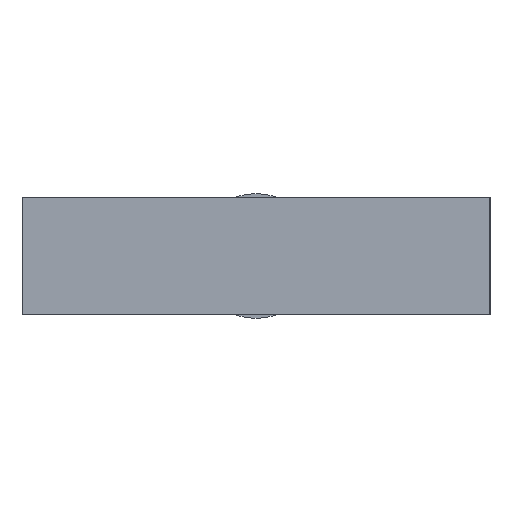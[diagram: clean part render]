
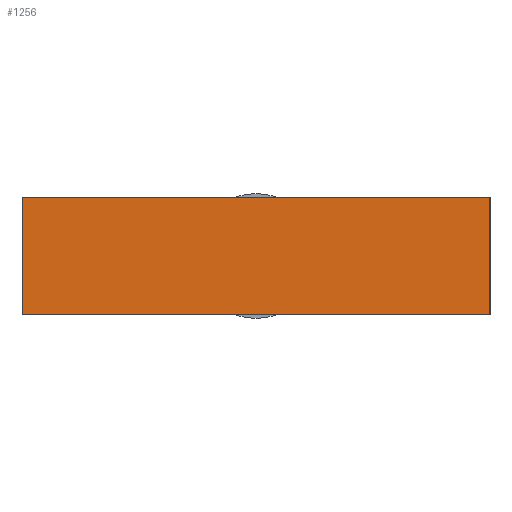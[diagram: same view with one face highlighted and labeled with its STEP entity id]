
A CAD part, left-side view. The second image highlights one B-rep face of the part: STEP entity #1256.
In plain terms, the highlighted planar face has unit normal (-1, 0, 0).
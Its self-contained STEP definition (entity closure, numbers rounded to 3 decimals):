
#1241 = VERTEX_POINT ( 'NONE', #1955 ) ;
#1242 = ORIENTED_EDGE ( 'NONE', *, *, #1261, .F. ) ;
#1243 = EDGE_CURVE ( 'NONE', #1244, #1241, #1954, .T. ) ;
#1244 = VERTEX_POINT ( 'NONE', #1950 ) ;
#1245 = ORIENTED_EDGE ( 'NONE', *, *, #1243, .T. ) ;
#1255 = EDGE_LOOP ( 'NONE', ( #1245, #1242, #1259, #1269 ) ) ;
#1256 = ADVANCED_FACE ( 'NONE', ( #1939 ), #1938, .F. ) ;
#1259 = ORIENTED_EDGE ( 'NONE', *, *, #1262, .F. ) ;
#1260 = VERTEX_POINT ( 'NONE', #1929 ) ;
#1261 = EDGE_CURVE ( 'NONE', #1263, #1241, #1995, .T. ) ;
#1262 = EDGE_CURVE ( 'NONE', #1260, #1263, #1991, .T. ) ;
#1263 = VERTEX_POINT ( 'NONE', #1987 ) ;
#1269 = ORIENTED_EDGE ( 'NONE', *, *, #1270, .T. ) ;
#1270 = EDGE_CURVE ( 'NONE', #1260, #1244, #1976, .T. ) ;
#1929 = CARTESIAN_POINT ( 'NONE',  ( 0., 3., -6. ) ) ;
#1934 = DIRECTION ( 'NONE',  ( 0., 0., -1. ) ) ;
#1935 = DIRECTION ( 'NONE',  ( 1., 0., 0. ) ) ;
#1936 = CARTESIAN_POINT ( 'NONE',  ( 0., 3., -6. ) ) ;
#1937 = AXIS2_PLACEMENT_3D ( 'NONE', #1936, #1935, #1934 ) ;
#1938 = PLANE ( 'NONE',  #1937 ) ;
#1939 = FACE_OUTER_BOUND ( 'NONE', #1255, .T. ) ;
#1950 = CARTESIAN_POINT ( 'NONE',  ( 0., 0., -6. ) ) ;
#1951 = DIRECTION ( 'NONE',  ( 0., 0., 1. ) ) ;
#1952 = VECTOR ( 'NONE', #1951, 1000. ) ;
#1953 = CARTESIAN_POINT ( 'NONE',  ( 0., 0., -6. ) ) ;
#1954 = LINE ( 'NONE', #1953, #1952 ) ;
#1955 = CARTESIAN_POINT ( 'NONE',  ( 0., 0., 6. ) ) ;
#1973 = DIRECTION ( 'NONE',  ( 0., -1., 0. ) ) ;
#1974 = VECTOR ( 'NONE', #1973, 1000. ) ;
#1975 = CARTESIAN_POINT ( 'NONE',  ( 0., 3., -6. ) ) ;
#1976 = LINE ( 'NONE', #1975, #1974 ) ;
#1987 = CARTESIAN_POINT ( 'NONE',  ( 0., 3., 6. ) ) ;
#1988 = DIRECTION ( 'NONE',  ( 0., 0., 1. ) ) ;
#1989 = VECTOR ( 'NONE', #1988, 1000. ) ;
#1990 = CARTESIAN_POINT ( 'NONE',  ( 0., 3., -6. ) ) ;
#1991 = LINE ( 'NONE', #1990, #1989 ) ;
#1992 = DIRECTION ( 'NONE',  ( 0., -1., 0. ) ) ;
#1993 = VECTOR ( 'NONE', #1992, 1000. ) ;
#1994 = CARTESIAN_POINT ( 'NONE',  ( 0., 3., 6. ) ) ;
#1995 = LINE ( 'NONE', #1994, #1993 ) ;
